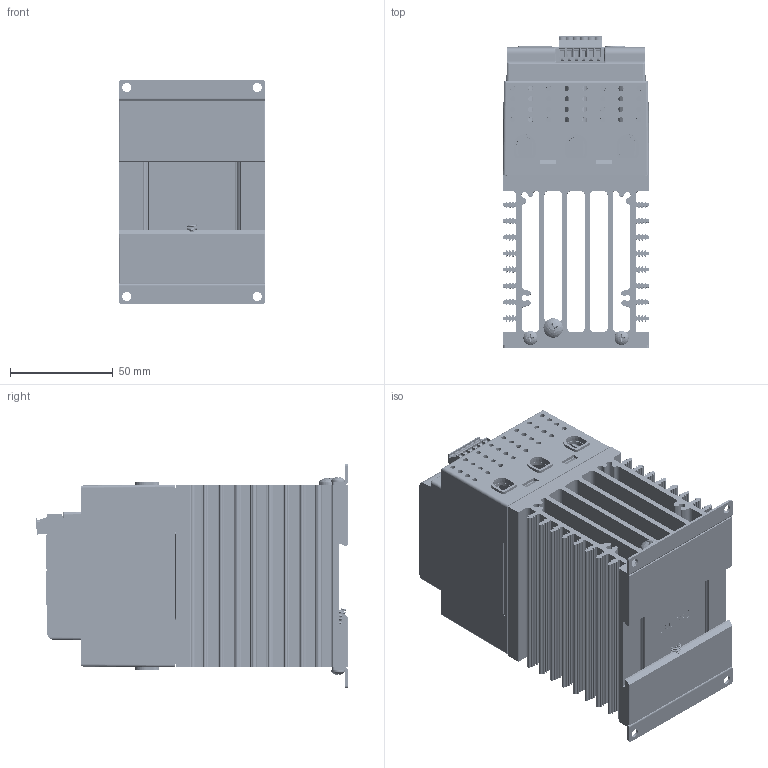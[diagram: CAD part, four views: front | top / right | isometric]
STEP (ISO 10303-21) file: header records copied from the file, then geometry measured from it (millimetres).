
FILE_DESCRIPTION(/* description */ (''),/* implementation_level */ '2;1');
FILE_NAME(/* name */ '3-phase EtherCAT 32A w-tabs.stp',/* time_stamp */ '2024-11-15T09:53:03-06:00',/* author */ ('ErikG'),/* organization */ (''),/* preprocessor_version */ 'ST-DEVELOPER v20',/* originating_system */ 'Autodesk Inventor 2025',/* authorisation */ '');
FILE_SCHEMA (('AUTOMOTIVE_DESIGN { 1 0 10303 214 3 1 1 }'));
Products named in the file (35): 3001632e; SCA-3TC; P1; usb-c31-s-vt-cs4-bk-pp-t-r-model ADAMTECH; P6; fci 6 pin header OQ06120000J0G; fci 6 pin headerOQ06120000J0G half 1; fci 5 pin header OQ05120000J0G half 2; fci 6 pin connector TS06110B00J0G; fci 5 pin connector TS05110B00J0G LEFT HALF; fci 5 pin connector TS05110B00J0G RIGHT HALF; P2; TC0203620000G; P11; P5; 74990101210 (rev1); base; shielding; SCA-3TC_1; SW3; SW2; SH-7070TA; _SH-7070A_body; _SH-700-Without knob (Minus slot); 3001769C_ecat cutouts; 3001761; 3001759; 3001766; 3001765b; 3001746; spring; 0060783-0610-010.ipt; 0060702-1032-0375; 3001753; 0060002-0632-0375
Assembly tree (42 placements, depth 6):
  3001632e
    SCA-3TC
      P1
        usb-c31-s-vt-cs4-bk-pp-t-r-model ADAMTECH
      P6
        fci 6 pin header OQ06120000J0G
          fci 6 pin headerOQ06120000J0G half 1
          fci 5 pin header OQ05120000J0G half 2
          fci 6 pin connector TS06110B00J0G
            fci 5 pin connector TS05110B00J0G LEFT HALF
            fci 5 pin connector TS05110B00J0G RIGHT HALF
      P2
        TC0203620000G
      P11
        74990101210 (rev1)
          base
          shielding
      P5
        74990101210 (rev1)
          base
          shielding
    SCA-3TC_1
      SW3
        SH-7070TA
          _SH-7070A_body
          _SH-700-Without knob (Minus slot)
      SW2
        SH-7070TA
          _SH-7070A_body
          _SH-700-Without knob (Minus slot)
    3001769C_ecat cutouts
    3001761  x3
    3001759
    3001766
    3001765b
    3001746
    spring
    0060783-0610-010.ipt
    0060702-1032-0375
    3001753  x2
    0060002-0632-0375  x4
Bounding box: 71.12 x 151.53 x 109.22 mm (x, y, z)
Volume: 304926.1 mm3; surface area: 279317.3 mm2
Topology: 32 solids, 122 shells, 10552 faces, 29556 edges, 19438 vertices
Faces by surface type: plane 8025, cylinder 1831, cone 380, bspline 190, torus 103, sphere 23
Full cylindrical faces by diameter (mm): 0.254 x1, 0.45 x2, 0.55 x2, 0.65 x2, 1 x6, 1.2 x2, 1.75 x2, 2.15 x12, 2.3 x12, 2.642 x6, 2.7 x2, 2.8 x4, 2.95 x6, 3.277 x4, 3.28 x2, 3.3 x2, 3.342 x1, 3.4 x2, 3.42 x2, 3.505 x4, 3.6 x2, 4 x2, 4.318 x8, 4.826 x1, 4.917 x1, 6 x1, 6.172 x1, 6.731 x2, 6.858 x4, 7.976 x1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
Entity records: 291574 total; most frequent: CARTESIAN_POINT 74792, ORIENTED_EDGE 46026, DIRECTION 42412, EDGE_CURVE 23013, LINE 17770, VECTOR 17770, VERTEX_POINT 15156, AXIS2_PLACEMENT_3D 12321
